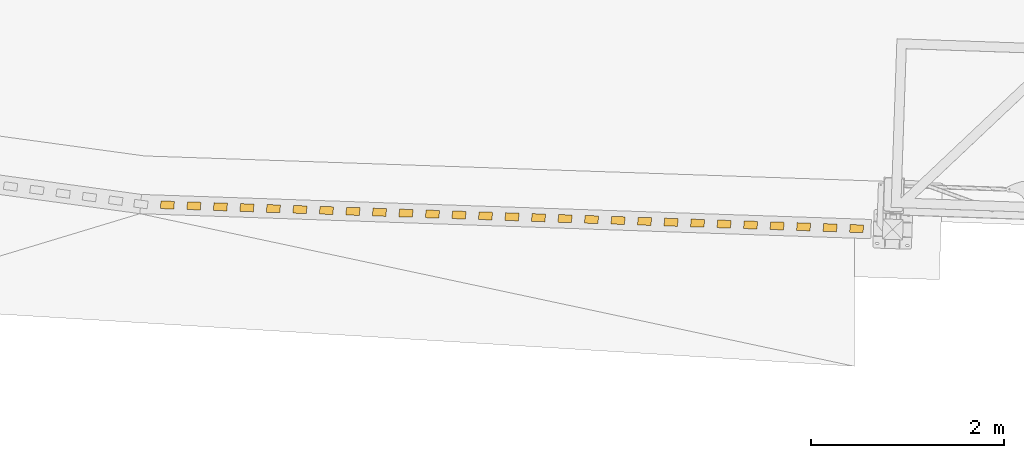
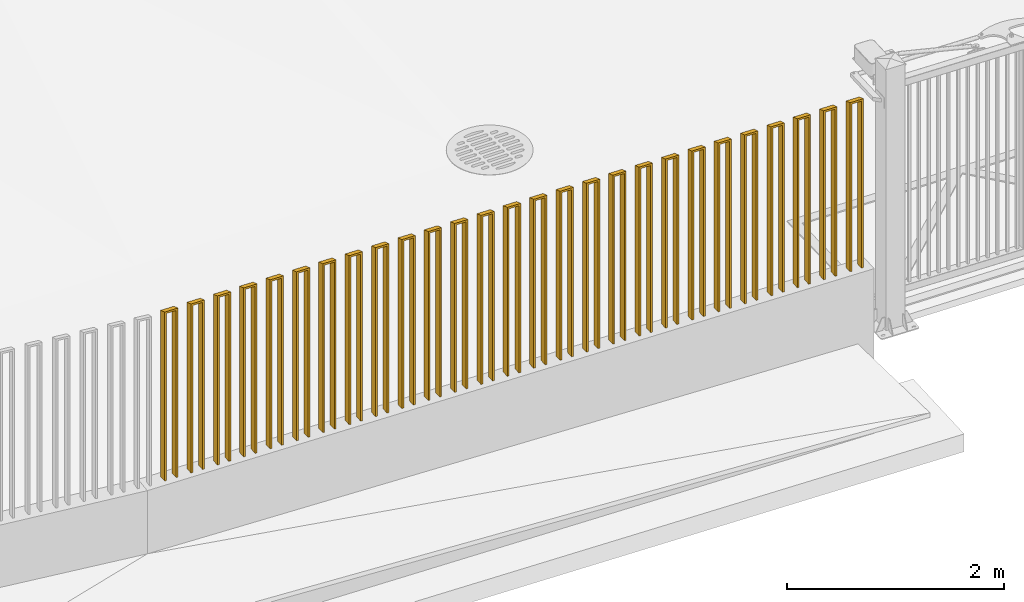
# One storey, part 66 of 77: 1 railing.
"""IFC2X3 building model written with IfcOpenShell, lengths in millimetres."""

from ifc_helpers import new_model, entity, si_unit, converted_unit, derived_unit, direction, frame, origin, place, context, subcontext, project, spatial, faceted_brep, material, element, save


model = new_model("IFC2X3")

# Units and contexts
model_context = context("Model", 3, precision=0.01, world=origin(), true_north=direction((6.12303176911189e-17, 1.0)))
body_context = subcontext(model_context, "Body", "Model", "MODEL_VIEW")
ifc_project = project(units=[si_unit("LENGTHUNIT", "METRE", prefix="MILLI"), si_unit("AREAUNIT", "SQUARE_METRE"), si_unit("VOLUMEUNIT", "CUBIC_METRE"), converted_unit("PLANEANGLEUNIT", "DEGREE", entity("IfcRatioMeasure", 0.0174532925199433), si_unit("PLANEANGLEUNIT", "RADIAN"), dimensions=[0, 0, 0, 0, 0, 0, 0]), si_unit("MASSUNIT", "GRAM", prefix="KILO"), derived_unit("MASSDENSITYUNIT", [(si_unit("MASSUNIT", "GRAM", prefix="KILO"), 1), (si_unit("LENGTHUNIT", "METRE"), -3)]), si_unit("TIMEUNIT", "SECOND"), si_unit("FREQUENCYUNIT", "HERTZ"), si_unit("THERMODYNAMICTEMPERATUREUNIT", "DEGREE_CELSIUS"), derived_unit("THERMALTRANSMITTANCEUNIT", [(si_unit("MASSUNIT", "GRAM", prefix="KILO"), 1), (si_unit("THERMODYNAMICTEMPERATUREUNIT", "KELVIN"), -1), (si_unit("TIMEUNIT", "SECOND"), -3)]), derived_unit("VOLUMETRICFLOWRATEUNIT", [(si_unit("LENGTHUNIT", "METRE"), 3), (si_unit("TIMEUNIT", "SECOND"), -1)]), si_unit("ELECTRICCURRENTUNIT", "AMPERE"), si_unit("ELECTRICVOLTAGEUNIT", "VOLT"), si_unit("POWERUNIT", "WATT"), si_unit("FORCEUNIT", "NEWTON", prefix="KILO"), si_unit("ILLUMINANCEUNIT", "LUX"), si_unit("LUMINOUSFLUXUNIT", "LUMEN"), si_unit("LUMINOUSINTENSITYUNIT", "CANDELA"), derived_unit("USERDEFINED", [(si_unit("MASSUNIT", "GRAM", prefix="KILO"), -1), (si_unit("LENGTHUNIT", "METRE"), -2), (si_unit("TIMEUNIT", "SECOND"), 3), (si_unit("LUMINOUSFLUXUNIT", "LUMEN"), 1)]), derived_unit("LINEARVELOCITYUNIT", [(si_unit("LENGTHUNIT", "METRE"), 1), (si_unit("TIMEUNIT", "SECOND"), -1)]), si_unit("PRESSUREUNIT", "PASCAL"), derived_unit("USERDEFINED", [(si_unit("LENGTHUNIT", "METRE"), -2), (si_unit("MASSUNIT", "GRAM", prefix="KILO"), 1), (si_unit("TIMEUNIT", "SECOND"), -2)])], contexts=[model_context])

# Site, building, storey
site_placement = place(None, origin())
site = spatial("IfcSite", under=ifc_project, at=site_placement, Name="Default", CompositionType="ELEMENT")
building_placement = place(site_placement, origin())
building = spatial("IfcBuilding", under=site, at=building_placement, CompositionType="ELEMENT")
storey_placement = place(building_placement, origin())
storey = spatial("IfcBuildingStorey", under=building, at=storey_placement, Name="1. KORRUS", CompositionType="ELEMENT", Elevation=0.0)

# Railing
ifc_material = material(Name="Default New Material(4)")
railing_placement = place(storey_placement, frame((4626.1149307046, -20894.3668676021, 550.0)))
element("IfcRailing", 1, at=railing_placement, inside=storey, material=ifc_material, Name="Railing:2m 3", ObjectType="Railing:2m 3", PredefinedType="NOTDEFINED", context=body_context, shape_type="Brep", body=[
    faceted_brep([(0.0, 249.683311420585, 0.0), (0.0, 249.683311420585, 1900.0), (2.74000890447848, 329.636374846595, 1870.8823812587), (2.74000890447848, 329.636374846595, 0.0), (19.988265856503, 248.998309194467, 0.0), (19.9882658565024, 248.998309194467, 1878.71644455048), (119.929595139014, 245.573298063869, 1878.71644455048), (119.929595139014, 245.573298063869, 0.0), (139.917860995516, 244.88829583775, 0.0), (139.917860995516, 244.88829583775, 1900.0), (142.657869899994, 324.84135926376, 1870.8823812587), (142.657869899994, 324.84135926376, 0.0), (122.669604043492, 325.526361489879, 0.0), (122.669604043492, 325.526361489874, 1849.59882580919), (22.7282747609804, 328.951372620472, 1849.59882580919), (22.7282747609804, 328.951372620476, 0.0)], [[[0, 1, 2, 3]], [[1, 0, 4, 5, 6, 7, 8, 9]], [[3, 2, 10, 11, 12, 13, 14, 15]], [[0, 3, 15, 4]], [[4, 15, 14, 5]], [[12, 7, 6, 13]], [[7, 12, 11, 8]], [[8, 11, 10, 9]], [[2, 1, 9, 10]], [[14, 13, 6, 5]]]),
    faceted_brep([(274.838655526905, 240.264530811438, 0.0), (274.838655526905, 240.264530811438, 1900.0), (277.578664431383, 320.217594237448, 1870.8823812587), (277.578664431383, 320.217594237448, 0.0), (294.826921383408, 239.57952858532, 0.0), (294.826921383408, 239.57952858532, 1878.71644455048), (394.768250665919, 236.154517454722, 1878.71644455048), (394.768250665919, 236.154517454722, 0.0), (414.75651652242, 235.469515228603, 0.0), (414.75651652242, 235.469515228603, 1900.0), (417.496525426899, 315.422578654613, 1870.8823812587), (417.496525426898, 315.422578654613, 0.0), (397.508259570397, 316.107580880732, 0.0), (397.508259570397, 316.107580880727, 1849.59882580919), (297.566930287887, 319.532592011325, 1849.59882580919), (297.566930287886, 319.532592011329, 0.0)], [[[0, 1, 2, 3]], [[1, 0, 4, 5, 6, 7, 8, 9]], [[3, 2, 10, 11, 12, 13, 14, 15]], [[0, 3, 15, 4]], [[4, 15, 14, 5]], [[12, 7, 6, 13]], [[7, 12, 11, 8]], [[8, 11, 10, 9]], [[2, 1, 9, 10]], [[14, 13, 6, 5]]]),
    faceted_brep([(549.677311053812, 230.845750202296, 0.0), (549.677311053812, 230.845750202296, 1900.0), (552.41731995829, 310.798813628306, 1870.8823812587), (552.41731995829, 310.798813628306, 0.0), (569.665576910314, 230.160747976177, 0.0), (569.665576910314, 230.160747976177, 1878.71644455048), (669.606906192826, 226.735736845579, 1878.71644455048), (669.606906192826, 226.735736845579, 0.0), (689.595172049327, 226.050734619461, 0.0), (689.595172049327, 226.050734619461, 1900.0), (692.335180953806, 306.003798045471, 1870.8823812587), (692.335180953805, 306.003798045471, 0.0), (672.346915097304, 306.688800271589, 0.0), (672.346915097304, 306.688800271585, 1849.59882580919), (572.405585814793, 310.113811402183, 1849.59882580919), (572.405585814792, 310.113811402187, 0.0)], [[[0, 1, 2, 3]], [[1, 0, 4, 5, 6, 7, 8, 9]], [[3, 2, 10, 11, 12, 13, 14, 15]], [[0, 3, 15, 4]], [[4, 15, 14, 5]], [[12, 7, 6, 13]], [[7, 12, 11, 8]], [[8, 11, 10, 9]], [[2, 1, 9, 10]], [[14, 13, 6, 5]]]),
    faceted_brep([(824.515966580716, 221.426969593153, 0.0), (824.515966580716, 221.426969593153, 1900.0), (827.255975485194, 301.380033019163, 1870.8823812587), (827.255975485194, 301.380033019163, 0.0), (844.504232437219, 220.741967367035, 0.0), (844.504232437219, 220.741967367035, 1878.71644455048), (944.44556171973, 217.316956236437, 1878.71644455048), (944.44556171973, 217.316956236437, 0.0), (964.433827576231, 216.631954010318, 0.0), (964.433827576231, 216.631954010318, 1900.0), (967.17383648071, 296.585017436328, 1870.8823812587), (967.173836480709, 296.585017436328, 0.0), (947.185570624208, 297.270019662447, 0.0), (947.185570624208, 297.270019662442, 1849.59882580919), (847.244241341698, 300.69503079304, 1849.59882580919), (847.244241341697, 300.695030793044, 0.0)], [[[0, 1, 2, 3]], [[1, 0, 4, 5, 6, 7, 8, 9]], [[3, 2, 10, 11, 12, 13, 14, 15]], [[0, 3, 15, 4]], [[4, 15, 14, 5]], [[12, 7, 6, 13]], [[7, 12, 11, 8]], [[8, 11, 10, 9]], [[2, 1, 9, 10]], [[14, 13, 6, 5]]]),
    faceted_brep([(1099.35462210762, 212.008188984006, 0.0), (1099.35462210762, 212.008188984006, 1900.0), (1102.0946310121, 291.961252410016, 1870.8823812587), (1102.0946310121, 291.961252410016, 0.0), (1119.34288796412, 211.323186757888, 0.0), (1119.34288796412, 211.323186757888, 1878.71644455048), (1219.28421724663, 207.89817562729, 1878.71644455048), (1219.28421724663, 207.89817562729, 0.0), (1239.27248310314, 207.213173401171, 0.0), (1239.27248310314, 207.213173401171, 1900.0), (1242.01249200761, 287.166236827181, 1870.8823812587), (1242.01249200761, 287.166236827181, 0.0), (1222.02422615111, 287.8512390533, 0.0), (1222.02422615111, 287.851239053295, 1849.59882580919), (1122.0828968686, 291.276250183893, 1849.59882580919), (1122.0828968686, 291.276250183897, 0.0)], [[[0, 1, 2, 3]], [[1, 0, 4, 5, 6, 7, 8, 9]], [[3, 2, 10, 11, 12, 13, 14, 15]], [[0, 3, 15, 4]], [[4, 15, 14, 5]], [[12, 7, 6, 13]], [[7, 12, 11, 8]], [[8, 11, 10, 9]], [[2, 1, 9, 10]], [[14, 13, 6, 5]]]),
    faceted_brep([(1374.19327763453, 202.589408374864, 0.0), (1374.19327763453, 202.589408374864, 1900.0), (1376.933286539, 282.542471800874, 1870.8823812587), (1376.933286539, 282.542471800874, 0.0), (1394.18154349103, 201.904406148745, 0.0), (1394.18154349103, 201.904406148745, 1878.71644455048), (1494.12287277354, 198.479395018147, 1878.71644455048), (1494.12287277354, 198.479395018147, 0.0), (1514.11113863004, 197.794392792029, 0.0), (1514.11113863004, 197.794392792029, 1900.0), (1516.85114753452, 277.747456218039, 1870.8823812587), (1516.85114753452, 277.747456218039, 0.0), (1496.86288167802, 278.432458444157, 0.0), (1496.86288167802, 278.432458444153, 1849.59882580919), (1396.92155239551, 281.857469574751, 1849.59882580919), (1396.92155239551, 281.857469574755, 0.0)], [[[0, 1, 2, 3]], [[1, 0, 4, 5, 6, 7, 8, 9]], [[3, 2, 10, 11, 12, 13, 14, 15]], [[0, 3, 15, 4]], [[4, 15, 14, 5]], [[12, 7, 6, 13]], [[7, 12, 11, 8]], [[8, 11, 10, 9]], [[2, 1, 9, 10]], [[14, 13, 6, 5]]]),
    faceted_brep([(1649.03193316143, 193.170627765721, 0.0), (1649.03193316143, 193.170627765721, 1900.0), (1651.77194206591, 273.123691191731, 1870.8823812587), (1651.77194206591, 273.123691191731, 0.0), (1669.02019901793, 192.485625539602, 0.0), (1669.02019901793, 192.485625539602, 1878.71644455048), (1768.96152830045, 189.060614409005, 1878.71644455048), (1768.96152830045, 189.060614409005, 0.0), (1788.94979415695, 188.375612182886, 0.0), (1788.94979415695, 188.375612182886, 1900.0), (1791.68980306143, 268.328675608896, 1870.8823812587), (1791.68980306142, 268.328675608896, 0.0), (1771.70153720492, 269.013677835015, 0.0), (1771.70153720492, 269.01367783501, 1849.59882580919), (1671.76020792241, 272.438688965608, 1849.59882580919), (1671.76020792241, 272.438688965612, 0.0)], [[[0, 1, 2, 3]], [[1, 0, 4, 5, 6, 7, 8, 9]], [[3, 2, 10, 11, 12, 13, 14, 15]], [[0, 3, 15, 4]], [[4, 15, 14, 5]], [[12, 7, 6, 13]], [[7, 12, 11, 8]], [[8, 11, 10, 9]], [[2, 1, 9, 10]], [[14, 13, 6, 5]]]),
    faceted_brep([(1923.87058868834, 183.751847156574, 0.0), (1923.87058868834, 183.751847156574, 1900.0), (1926.61059759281, 263.704910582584, 1870.8823812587), (1926.61059759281, 263.704910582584, 0.0), (1943.85885454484, 183.066844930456, 0.0), (1943.85885454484, 183.066844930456, 1878.71644455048), (2043.80018382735, 179.641833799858, 1878.71644455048), (2043.80018382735, 179.641833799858, 0.0), (2063.78844968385, 178.956831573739, 0.0), (2063.78844968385, 178.956831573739, 1900.0), (2066.52845858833, 258.909894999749, 1870.8823812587), (2066.52845858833, 258.909894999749, 0.0), (2046.54019273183, 259.594897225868, 0.0), (2046.54019273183, 259.594897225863, 1849.59882580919), (1946.59886344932, 263.019908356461, 1849.59882580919), (1946.59886344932, 263.019908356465, 0.0)], [[[0, 1, 2, 3]], [[1, 0, 4, 5, 6, 7, 8, 9]], [[3, 2, 10, 11, 12, 13, 14, 15]], [[0, 3, 15, 4]], [[4, 15, 14, 5]], [[12, 7, 6, 13]], [[7, 12, 11, 8]], [[8, 11, 10, 9]], [[2, 1, 9, 10]], [[14, 13, 6, 5]]]),
    faceted_brep([(2198.70924421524, 174.333066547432, 0.0), (2198.70924421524, 174.333066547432, 1900.0), (2201.44925311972, 254.286129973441, 1870.8823812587), (2201.44925311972, 254.286129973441, 0.0), (2218.69751007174, 173.648064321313, 0.0), (2218.69751007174, 173.648064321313, 1878.71644455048), (2318.63883935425, 170.223053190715, 1878.71644455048), (2318.63883935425, 170.223053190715, 0.0), (2338.62710521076, 169.538050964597, 0.0), (2338.62710521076, 169.538050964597, 1900.0), (2341.36711411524, 249.491114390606, 1870.8823812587), (2341.36711411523, 249.491114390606, 0.0), (2321.37884825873, 250.176116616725, 0.0), (2321.37884825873, 250.176116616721, 1849.59882580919), (2221.43751897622, 253.601127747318, 1849.59882580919), (2221.43751897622, 253.601127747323, 0.0)], [[[0, 1, 2, 3]], [[1, 0, 4, 5, 6, 7, 8, 9]], [[3, 2, 10, 11, 12, 13, 14, 15]], [[0, 3, 15, 4]], [[4, 15, 14, 5]], [[12, 7, 6, 13]], [[7, 12, 11, 8]], [[8, 11, 10, 9]], [[2, 1, 9, 10]], [[14, 13, 6, 5]]]),
    faceted_brep([(2473.54789974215, 164.914285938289, 0.0), (2473.54789974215, 164.914285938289, 1900.0), (2476.28790864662, 244.867349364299, 1870.8823812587), (2476.28790864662, 244.867349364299, 0.0), (2493.53616559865, 164.22928371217, 0.0), (2493.53616559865, 164.22928371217, 1878.71644455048), (2593.47749488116, 160.804272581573, 1878.71644455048), (2593.47749488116, 160.804272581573, 0.0), (2613.46576073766, 160.119270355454, 0.0), (2613.46576073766, 160.119270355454, 1900.0), (2616.20576964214, 240.072333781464, 1870.8823812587), (2616.20576964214, 240.072333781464, 0.0), (2596.21750378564, 240.757336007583, 0.0), (2596.21750378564, 240.757336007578, 1849.59882580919), (2496.27617450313, 244.182347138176, 1849.59882580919), (2496.27617450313, 244.18234713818, 0.0)], [[[0, 1, 2, 3]], [[1, 0, 4, 5, 6, 7, 8, 9]], [[3, 2, 10, 11, 12, 13, 14, 15]], [[0, 3, 15, 4]], [[4, 15, 14, 5]], [[12, 7, 6, 13]], [[7, 12, 11, 8]], [[8, 11, 10, 9]], [[2, 1, 9, 10]], [[14, 13, 6, 5]]]),
    faceted_brep([(2748.38655526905, 155.495505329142, 0.0), (2748.38655526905, 155.495505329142, 1900.0), (2751.12656417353, 235.448568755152, 1870.8823812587), (2751.12656417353, 235.448568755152, 0.0), (2768.37482112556, 154.810503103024, 0.0), (2768.37482112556, 154.810503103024, 1878.71644455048), (2868.31615040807, 151.385491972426, 1878.71644455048), (2868.31615040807, 151.385491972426, 0.0), (2888.30441626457, 150.700489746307, 0.0), (2888.30441626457, 150.700489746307, 1900.0), (2891.04442516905, 230.653553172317, 1870.8823812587), (2891.04442516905, 230.653553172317, 0.0), (2871.05615931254, 231.338555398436, 0.0), (2871.05615931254, 231.338555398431, 1849.59882580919), (2771.11483003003, 234.763566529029, 1849.59882580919), (2771.11483003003, 234.763566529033, 0.0)], [[[0, 1, 2, 3]], [[1, 0, 4, 5, 6, 7, 8, 9]], [[3, 2, 10, 11, 12, 13, 14, 15]], [[0, 3, 15, 4]], [[4, 15, 14, 5]], [[12, 7, 6, 13]], [[7, 12, 11, 8]], [[8, 11, 10, 9]], [[2, 1, 9, 10]], [[14, 13, 6, 5]]]),
    faceted_brep([(3023.22521079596, 146.07672472, 0.0), (3023.22521079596, 146.07672472, 1900.0), (3025.96521970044, 226.029788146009, 1870.8823812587), (3025.96521970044, 226.029788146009, 0.0), (3043.21347665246, 145.391722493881, 0.0), (3043.21347665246, 145.391722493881, 1878.71644455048), (3143.15480593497, 141.966711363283, 1878.71644455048), (3143.15480593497, 141.966711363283, 0.0), (3163.14307179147, 141.281709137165, 0.0), (3163.14307179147, 141.281709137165, 1900.0), (3165.88308069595, 221.234772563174, 1870.8823812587), (3165.88308069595, 221.234772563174, 0.0), (3145.89481483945, 221.919774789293, 0.0), (3145.89481483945, 221.919774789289, 1849.59882580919), (3045.95348555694, 225.344785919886, 1849.59882580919), (3045.95348555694, 225.344785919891, 0.0)], [[[0, 1, 2, 3]], [[1, 0, 4, 5, 6, 7, 8, 9]], [[3, 2, 10, 11, 12, 13, 14, 15]], [[0, 3, 15, 4]], [[4, 15, 14, 5]], [[12, 7, 6, 13]], [[7, 12, 11, 8]], [[8, 11, 10, 9]], [[2, 1, 9, 10]], [[14, 13, 6, 5]]]),
    faceted_brep([(3298.06386632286, 136.657944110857, 0.0), (3298.06386632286, 136.657944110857, 1900.0), (3300.80387522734, 216.611007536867, 1870.8823812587), (3300.80387522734, 216.611007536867, 0.0), (3318.05213217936, 135.972941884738, 0.0), (3318.05213217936, 135.972941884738, 1878.71644455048), (3417.99346146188, 132.547930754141, 1878.71644455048), (3417.99346146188, 132.547930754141, 0.0), (3437.98172731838, 131.862928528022, 0.0), (3437.98172731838, 131.862928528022, 1900.0), (3440.72173622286, 211.815991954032, 1870.8823812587), (3440.72173622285, 211.815991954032, 0.0), (3420.73347036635, 212.50099418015, 0.0), (3420.73347036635, 212.500994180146, 1849.59882580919), (3320.79214108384, 215.926005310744, 1849.59882580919), (3320.79214108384, 215.926005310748, 0.0)], [[[0, 1, 2, 3]], [[1, 0, 4, 5, 6, 7, 8, 9]], [[3, 2, 10, 11, 12, 13, 14, 15]], [[0, 3, 15, 4]], [[4, 15, 14, 5]], [[12, 7, 6, 13]], [[7, 12, 11, 8]], [[8, 11, 10, 9]], [[2, 1, 9, 10]], [[14, 13, 6, 5]]]),
    faceted_brep([(3572.90252184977, 127.23916350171, 0.0), (3572.90252184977, 127.23916350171, 1900.0), (3575.64253075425, 207.19222692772, 1870.8823812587), (3575.64253075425, 207.19222692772, 0.0), (3592.89078770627, 126.554161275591, 0.0), (3592.89078770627, 126.554161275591, 1878.71644455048), (3692.83211698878, 123.129150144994, 1878.71644455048), (3692.83211698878, 123.129150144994, 0.0), (3712.82038284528, 122.444147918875, 0.0), (3712.82038284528, 122.444147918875, 1900.0), (3715.56039174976, 202.397211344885, 1870.8823812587), (3715.56039174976, 202.397211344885, 0.0), (3695.57212589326, 203.082213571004, 0.0), (3695.57212589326, 203.082213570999, 1849.59882580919), (3595.63079661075, 206.507224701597, 1849.59882580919), (3595.63079661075, 206.507224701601, 0.0)], [[[0, 1, 2, 3]], [[1, 0, 4, 5, 6, 7, 8, 9]], [[3, 2, 10, 11, 12, 13, 14, 15]], [[0, 3, 15, 4]], [[4, 15, 14, 5]], [[12, 7, 6, 13]], [[7, 12, 11, 8]], [[8, 11, 10, 9]], [[2, 1, 9, 10]], [[14, 13, 6, 5]]]),
    faceted_brep([(3847.74117737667, 117.820382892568, 0.0), (3847.74117737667, 117.820382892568, 1900.0), (3850.48118628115, 197.773446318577, 1870.8823812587), (3850.48118628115, 197.773446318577, 0.0), (3867.72944323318, 117.135380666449, 0.0), (3867.72944323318, 117.135380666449, 1878.71644455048), (3967.67077251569, 113.710369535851, 1878.71644455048), (3967.67077251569, 113.710369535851, 0.0), (3987.65903837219, 113.025367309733, 0.0), (3987.65903837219, 113.025367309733, 1900.0), (3990.39904727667, 192.978430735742, 1870.8823812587), (3990.39904727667, 192.978430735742, 0.0), (3970.41078142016, 193.663432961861, 0.0), (3970.41078142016, 193.663432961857, 1849.59882580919), (3870.46945213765, 197.088444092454, 1849.59882580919), (3870.46945213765, 197.088444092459, 0.0)], [[[0, 1, 2, 3]], [[1, 0, 4, 5, 6, 7, 8, 9]], [[3, 2, 10, 11, 12, 13, 14, 15]], [[0, 3, 15, 4]], [[4, 15, 14, 5]], [[12, 7, 6, 13]], [[7, 12, 11, 8]], [[8, 11, 10, 9]], [[2, 1, 9, 10]], [[14, 13, 6, 5]]]),
    faceted_brep([(4122.57983290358, 108.401602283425, 0.0), (4122.57983290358, 108.401602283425, 1900.0), (4125.31984180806, 188.354665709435, 1870.8823812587), (4125.31984180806, 188.354665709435, 0.0), (4142.56809876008, 107.716600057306, 0.0), (4142.56809876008, 107.716600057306, 1878.71644455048), (4242.50942804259, 104.291588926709, 1878.71644455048), (4242.50942804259, 104.291588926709, 0.0), (4262.49769389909, 103.60658670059, 0.0), (4262.49769389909, 103.60658670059, 1900.0), (4265.23770280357, 183.5596501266, 1870.8823812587), (4265.23770280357, 183.5596501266, 0.0), (4245.24943694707, 184.244652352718, 0.0), (4245.24943694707, 184.244652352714, 1849.59882580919), (4145.30810766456, 187.669663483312, 1849.59882580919), (4145.30810766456, 187.669663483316, 0.0)], [[[0, 1, 2, 3]], [[1, 0, 4, 5, 6, 7, 8, 9]], [[3, 2, 10, 11, 12, 13, 14, 15]], [[0, 3, 15, 4]], [[4, 15, 14, 5]], [[12, 7, 6, 13]], [[7, 12, 11, 8]], [[8, 11, 10, 9]], [[2, 1, 9, 10]], [[14, 13, 6, 5]]]),
    faceted_brep([(4397.41848843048, 98.9828216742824, 0.0), (4397.41848843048, 98.9828216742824, 1900.0), (4400.15849733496, 178.935885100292, 1870.8823812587), (4400.15849733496, 178.935885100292, 0.0), (4417.40675428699, 98.2978194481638, 0.0), (4417.40675428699, 98.2978194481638, 1878.71644455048), (4517.3480835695, 94.8728083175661, 1878.71644455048), (4517.3480835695, 94.8728083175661, 0.0), (4537.336349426, 94.1878060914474, 0.0), (4537.336349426, 94.1878060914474, 1900.0), (4540.07635833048, 174.140869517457, 1870.8823812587), (4540.07635833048, 174.140869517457, 0.0), (4520.08809247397, 174.825871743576, 0.0), (4520.08809247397, 174.825871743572, 1849.59882580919), (4420.14676319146, 178.250882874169, 1849.59882580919), (4420.14676319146, 178.250882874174, 0.0)], [[[0, 1, 2, 3]], [[1, 0, 4, 5, 6, 7, 8, 9]], [[3, 2, 10, 11, 12, 13, 14, 15]], [[0, 3, 15, 4]], [[4, 15, 14, 5]], [[12, 7, 6, 13]], [[7, 12, 11, 8]], [[8, 11, 10, 9]], [[2, 1, 9, 10]], [[14, 13, 6, 5]]]),
    faceted_brep([(4672.25714395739, 89.5640410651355, 0.0), (4672.25714395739, 89.5640410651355, 1900.0), (4674.99715286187, 169.517104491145, 1870.8823812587), (4674.99715286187, 169.517104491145, 0.0), (4692.24540981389, 88.8790388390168, 0.0), (4692.24540981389, 88.8790388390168, 1878.71644455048), (4792.1867390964, 85.4540277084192, 1878.71644455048), (4792.1867390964, 85.4540277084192, 0.0), (4812.1750049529, 84.7690254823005, 0.0), (4812.1750049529, 84.7690254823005, 1900.0), (4814.91501385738, 164.72208890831, 1870.8823812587), (4814.91501385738, 164.72208890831, 0.0), (4794.92674800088, 165.407091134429, 0.0), (4794.92674800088, 165.407091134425, 1849.59882580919), (4694.98541871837, 168.832102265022, 1849.59882580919), (4694.98541871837, 168.832102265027, 0.0)], [[[0, 1, 2, 3]], [[1, 0, 4, 5, 6, 7, 8, 9]], [[3, 2, 10, 11, 12, 13, 14, 15]], [[0, 3, 15, 4]], [[4, 15, 14, 5]], [[12, 7, 6, 13]], [[7, 12, 11, 8]], [[8, 11, 10, 9]], [[2, 1, 9, 10]], [[14, 13, 6, 5]]]),
    faceted_brep([(4947.09579948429, 80.145260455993, 0.0), (4947.09579948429, 80.145260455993, 1900.0), (4949.83580838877, 160.098323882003, 1870.8823812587), (4949.83580838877, 160.098323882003, 0.0), (4967.0840653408, 79.4602582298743, 0.0), (4967.0840653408, 79.4602582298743, 1878.71644455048), (5067.02539462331, 76.0352470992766, 1878.71644455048), (5067.02539462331, 76.0352470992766, 0.0), (5087.01366047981, 75.3502448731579, 0.0), (5087.01366047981, 75.3502448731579, 1900.0), (5089.75366938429, 155.303308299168, 1870.8823812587), (5089.75366938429, 155.303308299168, 0.0), (5069.76540352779, 155.988310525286, 0.0), (5069.76540352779, 155.988310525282, 1849.59882580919), (4969.82407424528, 159.41332165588, 1849.59882580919), (4969.82407424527, 159.413321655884, 0.0)], [[[0, 1, 2, 3]], [[1, 0, 4, 5, 6, 7, 8, 9]], [[3, 2, 10, 11, 12, 13, 14, 15]], [[0, 3, 15, 4]], [[4, 15, 14, 5]], [[12, 7, 6, 13]], [[7, 12, 11, 8]], [[8, 11, 10, 9]], [[2, 1, 9, 10]], [[14, 13, 6, 5]]]),
    faceted_brep([(5221.9344550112, 70.7264798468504, 0.0), (5221.9344550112, 70.7264798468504, 1900.0), (5224.67446391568, 150.67954327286, 1870.8823812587), (5224.67446391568, 150.67954327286, 0.0), (5241.9227208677, 70.0414776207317, 0.0), (5241.9227208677, 70.0414776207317, 1878.71644455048), (5341.86405015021, 66.616466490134, 1878.71644455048), (5341.86405015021, 66.616466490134, 0.0), (5361.85231600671, 65.9314642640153, 0.0), (5361.85231600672, 65.9314642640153, 1900.0), (5364.59232491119, 145.884527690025, 1870.8823812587), (5364.59232491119, 145.884527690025, 0.0), (5344.60405905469, 146.569529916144, 0.0), (5344.60405905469, 146.569529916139, 1849.59882580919), (5244.66272977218, 149.994541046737, 1849.59882580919), (5244.66272977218, 149.994541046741, 0.0)], [[[0, 1, 2, 3]], [[1, 0, 4, 5, 6, 7, 8, 9]], [[3, 2, 10, 11, 12, 13, 14, 15]], [[0, 3, 15, 4]], [[4, 15, 14, 5]], [[12, 7, 6, 13]], [[7, 12, 11, 8]], [[8, 11, 10, 9]], [[2, 1, 9, 10]], [[14, 13, 6, 5]]]),
    faceted_brep([(5496.7731105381, 61.3076992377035, 0.0), (5496.7731105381, 61.3076992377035, 1900.0), (5499.51311944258, 141.260762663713, 1870.8823812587), (5499.51311944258, 141.260762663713, 0.0), (5516.7613763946, 60.6226970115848, 0.0), (5516.7613763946, 60.6226970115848, 1878.71644455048), (5616.70270567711, 57.1976858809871, 1878.71644455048), (5616.70270567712, 57.1976858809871, 0.0), (5636.69097153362, 56.5126836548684, 0.0), (5636.69097153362, 56.5126836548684, 1900.0), (5639.4309804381, 136.465747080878, 1870.8823812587), (5639.4309804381, 136.465747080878, 0.0), (5619.4427145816, 137.150749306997, 0.0), (5619.4427145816, 137.150749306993, 1849.59882580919), (5519.50138529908, 140.57576043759, 1849.59882580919), (5519.50138529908, 140.575760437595, 0.0)], [[[0, 1, 2, 3]], [[1, 0, 4, 5, 6, 7, 8, 9]], [[3, 2, 10, 11, 12, 13, 14, 15]], [[0, 3, 15, 4]], [[4, 15, 14, 5]], [[12, 7, 6, 13]], [[7, 12, 11, 8]], [[8, 11, 10, 9]], [[2, 1, 9, 10]], [[14, 13, 6, 5]]]),
    faceted_brep([(5771.61176606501, 51.8889186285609, 0.0), (5771.61176606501, 51.8889186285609, 1900.0), (5774.35177496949, 131.841982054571, 1870.8823812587), (5774.35177496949, 131.841982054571, 0.0), (5791.60003192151, 51.2039164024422, 0.0), (5791.60003192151, 51.2039164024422, 1878.71644455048), (5891.54136120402, 47.7789052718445, 1878.71644455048), (5891.54136120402, 47.7789052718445, 0.0), (5911.52962706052, 47.0939030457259, 0.0), (5911.52962706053, 47.0939030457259, 1900.0), (5914.269635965, 127.046966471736, 1870.8823812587), (5914.269635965, 127.046966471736, 0.0), (5894.2813701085, 127.731968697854, 0.0), (5894.2813701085, 127.73196869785, 1849.59882580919), (5794.34004082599, 131.156979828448, 1849.59882580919), (5794.34004082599, 131.156979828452, 0.0)], [[[0, 1, 2, 3]], [[1, 0, 4, 5, 6, 7, 8, 9]], [[3, 2, 10, 11, 12, 13, 14, 15]], [[0, 3, 15, 4]], [[4, 15, 14, 5]], [[12, 7, 6, 13]], [[7, 12, 11, 8]], [[8, 11, 10, 9]], [[2, 1, 9, 10]], [[14, 13, 6, 5]]]),
    faceted_brep([(6046.45042159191, 42.4701380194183, 0.0), (6046.45042159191, 42.4701380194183, 1900.0), (6049.19043049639, 122.423201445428, 1870.8823812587), (6049.19043049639, 122.423201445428, 0.0), (6066.43868744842, 41.7851357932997, 0.0), (6066.43868744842, 41.7851357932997, 1878.71644455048), (6166.38001673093, 38.360124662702, 1878.71644455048), (6166.38001673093, 38.360124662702, 0.0), (6186.36828258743, 37.6751224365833, 0.0), (6186.36828258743, 37.6751224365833, 1900.0), (6189.10829149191, 117.628185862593, 1870.8823812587), (6189.10829149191, 117.628185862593, 0.0), (6169.12002563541, 118.313188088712, 0.0), (6169.12002563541, 118.313188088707, 1849.59882580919), (6069.17869635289, 121.738199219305, 1849.59882580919), (6069.17869635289, 121.738199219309, 0.0)], [[[0, 1, 2, 3]], [[1, 0, 4, 5, 6, 7, 8, 9]], [[3, 2, 10, 11, 12, 13, 14, 15]], [[0, 3, 15, 4]], [[4, 15, 14, 5]], [[12, 7, 6, 13]], [[7, 12, 11, 8]], [[8, 11, 10, 9]], [[2, 1, 9, 10]], [[14, 13, 6, 5]]]),
    faceted_brep([(6321.28907711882, 33.0513574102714, 0.0), (6321.28907711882, 33.0513574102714, 1900.0), (6324.0290860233, 113.004420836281, 1870.8823812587), (6324.0290860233, 113.004420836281, 0.0), (6341.27734297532, 32.3663551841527, 0.0), (6341.27734297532, 32.3663551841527, 1878.71644455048), (6441.21867225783, 28.9413440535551, 1878.71644455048), (6441.21867225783, 28.9413440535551, 0.0), (6461.20693811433, 28.2563418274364, 0.0), (6461.20693811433, 28.2563418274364, 1900.0), (6463.94694701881, 108.209405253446, 1870.8823812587), (6463.94694701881, 108.209405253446, 0.0), (6443.95868116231, 108.894407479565, 0.0), (6443.95868116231, 108.894407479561, 1849.59882580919), (6344.0173518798, 112.319418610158, 1849.59882580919), (6344.0173518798, 112.319418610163, 0.0)], [[[0, 1, 2, 3]], [[1, 0, 4, 5, 6, 7, 8, 9]], [[3, 2, 10, 11, 12, 13, 14, 15]], [[0, 3, 15, 4]], [[4, 15, 14, 5]], [[12, 7, 6, 13]], [[7, 12, 11, 8]], [[8, 11, 10, 9]], [[2, 1, 9, 10]], [[14, 13, 6, 5]]]),
    faceted_brep([(6596.12773264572, 23.6325768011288, 0.0), (6596.12773264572, 23.6325768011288, 1900.0), (6598.8677415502, 103.585640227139, 1870.8823812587), (6598.8677415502, 103.585640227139, 0.0), (6616.11599850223, 22.9475745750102, 0.0), (6616.11599850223, 22.9475745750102, 1878.71644455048), (6716.05732778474, 19.5225634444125, 1878.71644455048), (6716.05732778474, 19.5225634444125, 0.0), (6736.04559364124, 18.8375612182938, 0.0), (6736.04559364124, 18.8375612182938, 1900.0), (6738.78560254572, 98.7906246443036, 1870.8823812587), (6738.78560254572, 98.7906246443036, 0.0), (6718.79733668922, 99.4756268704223, 0.0), (6718.79733668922, 99.4756268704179, 1849.59882580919), (6618.85600740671, 102.900638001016, 1849.59882580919), (6618.85600740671, 102.90063800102, 0.0)], [[[0, 1, 2, 3]], [[1, 0, 4, 5, 6, 7, 8, 9]], [[3, 2, 10, 11, 12, 13, 14, 15]], [[0, 3, 15, 4]], [[4, 15, 14, 5]], [[12, 7, 6, 13]], [[7, 12, 11, 8]], [[8, 11, 10, 9]], [[2, 1, 9, 10]], [[14, 13, 6, 5]]]),
    faceted_brep([(6870.96638817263, 14.2137961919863, 0.0), (6870.96638817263, 14.2137961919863, 1900.0), (6873.70639707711, 94.1668596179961, 1870.8823812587), (6873.70639707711, 94.1668596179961, 0.0), (6890.95465402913, 13.5287939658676, 0.0), (6890.95465402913, 13.5287939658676, 1878.71644455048), (6990.89598331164, 10.1037828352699, 1878.71644455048), (6990.89598331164, 10.1037828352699, 0.0), (7010.88424916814, 9.41878060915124, 0.0), (7010.88424916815, 9.41878060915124, 1900.0), (7013.62425807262, 89.371844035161, 1870.8823812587), (7013.62425807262, 89.371844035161, 0.0), (6993.63599221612, 90.0568462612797, 0.0), (6993.63599221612, 90.0568462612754, 1849.59882580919), (6893.69466293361, 93.4818573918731, 1849.59882580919), (6893.69466293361, 93.4818573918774, 0.0)], [[[0, 1, 2, 3]], [[1, 0, 4, 5, 6, 7, 8, 9]], [[3, 2, 10, 11, 12, 13, 14, 15]], [[0, 3, 15, 4]], [[4, 15, 14, 5]], [[12, 7, 6, 13]], [[7, 12, 11, 8]], [[8, 11, 10, 9]], [[2, 1, 9, 10]], [[14, 13, 6, 5]]]),
    faceted_brep([(7145.80504369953, 4.79501558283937, 0.0), (7145.80504369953, 4.79501558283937, 1900.0), (7148.54505260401, 84.7480790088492, 1870.8823812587), (7148.54505260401, 84.7480790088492, 0.0), (7165.79330955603, 4.1100133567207, 0.0), (7165.79330955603, 4.1100133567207, 1878.71644455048), (7265.73463883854, 0.685002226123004, 1878.71644455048), (7265.73463883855, 0.685002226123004, 0.0), (7285.72290469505, 0.0, 0.0), (7285.72290469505, 0.0, 1900.0), (7288.46291359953, 79.9530634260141, 1870.8823812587), (7288.46291359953, 79.9530634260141, 0.0), (7268.47464774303, 80.6380656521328, 0.0), (7268.47464774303, 80.6380656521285, 1849.59882580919), (7168.53331846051, 84.0630767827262, 1849.59882580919), (7168.53331846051, 84.0630767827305, 0.0)], [[[0, 1, 2, 3]], [[1, 0, 4, 5, 6, 7, 8, 9]], [[3, 2, 10, 11, 12, 13, 14, 15]], [[0, 3, 15, 4]], [[4, 15, 14, 5]], [[12, 7, 6, 13]], [[7, 12, 11, 8]], [[8, 11, 10, 9]], [[2, 1, 9, 10]], [[14, 13, 6, 5]]]),
])

save(model, "model.ifc")
